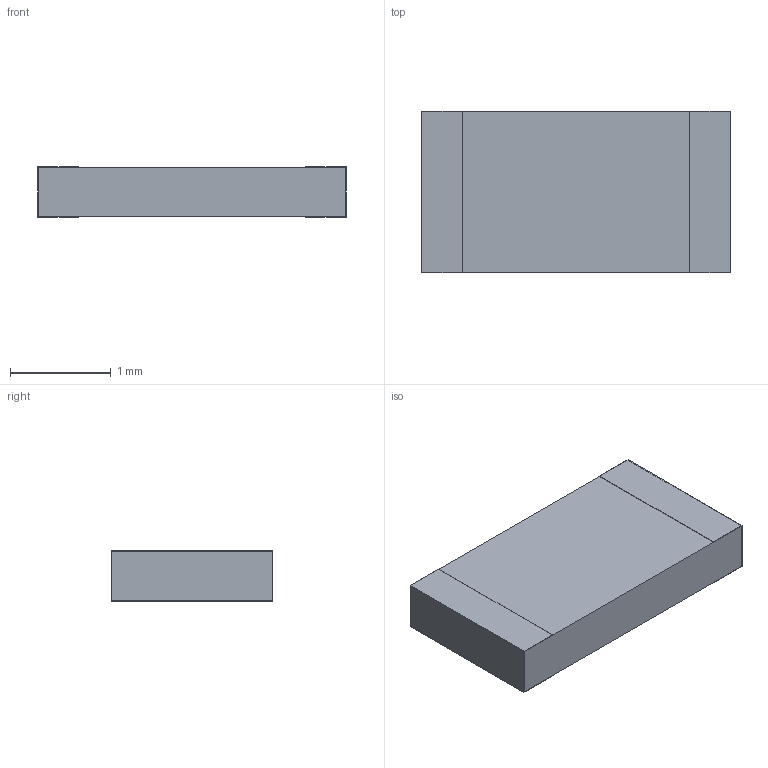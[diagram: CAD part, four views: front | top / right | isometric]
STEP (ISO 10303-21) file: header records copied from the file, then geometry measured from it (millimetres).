
FILE_DESCRIPTION(/* description */ (''),/* implementation_level */ '2;1');
FILE_NAME(/* name */ 'S:\DOCUMENT\AUTOCAD\3D_Modèles\10_3D-pour-VISHAY-COM\P\P1206_B-or-N-or-G.stp',/* time_stamp */ '2018-01-31T09:55:50+01:00',/* author */ ('dparmentier'),/* organization */ ('unknown'),/* preprocessor_version */ 'ST-DEVELOPER v17',/* originating_system */ 'Autodesk Inventor 2018',/* authorisation */ '');
FILE_SCHEMA (('AUTOMOTIVE_DESIGN { 1 0 10303 214 3 1 1 }'));
Length unit declared in the file: millimetre
Products named in the file (1): P1206_B-or-N-or-G
Bounding box: 3.06 x 1.6 x 0.5 mm (x, y, z)
Volume: 2.4 mm3; surface area: 22.6 mm2
Topology: 3 solids, 3 shells, 26 faces, 60 edges, 40 vertices
Faces by surface type: plane 26
Entity records: 775 total; most frequent: CARTESIAN_POINT 127, ORIENTED_EDGE 120, DIRECTION 114, LINE 60, VECTOR 60, EDGE_CURVE 60, VERTEX_POINT 40, AXIS2_PLACEMENT_3D 27
